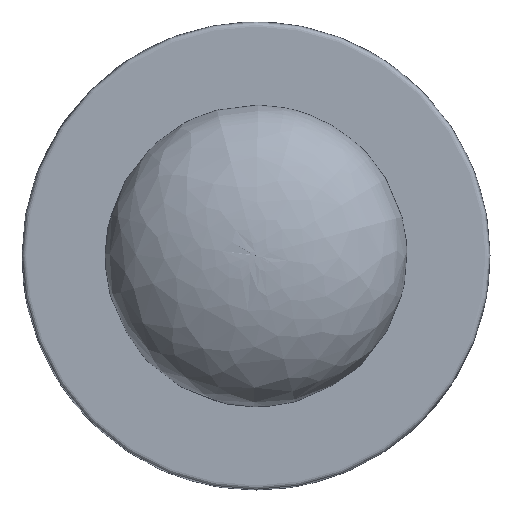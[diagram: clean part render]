
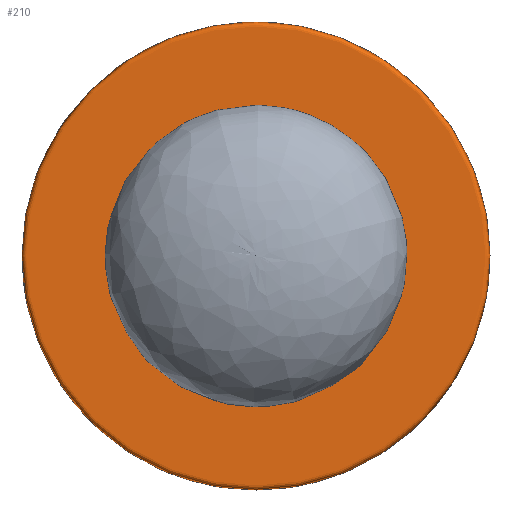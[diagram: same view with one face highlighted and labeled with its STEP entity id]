
A CAD part, front view. The second image highlights one B-rep face of the part: STEP entity #210.
In plain terms, the highlighted free-form (B-spline) face has degree [2, 2] with [9, 7] control points.
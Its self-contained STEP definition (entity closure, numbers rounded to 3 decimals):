
#210=ADVANCED_FACE('',(#295),#1305,.T.);
#295=FACE_OUTER_BOUND('',#388,.T.);
#388=EDGE_LOOP('',(#606,#607,#608,#609,#610));
#606=ORIENTED_EDGE('',*,*,#916,.T.);
#607=ORIENTED_EDGE('',*,*,#917,.T.);
#608=ORIENTED_EDGE('',*,*,#910,.F.);
#609=ORIENTED_EDGE('',*,*,#917,.F.);
#610=ORIENTED_EDGE('',*,*,#915,.T.);
#910=EDGE_CURVE('',#1193,#1193,#1065,.T.);
#915=EDGE_CURVE('',#1196,#1197,#1070,.T.);
#916=EDGE_CURVE('',#1197,#1196,#1071,.T.);
#917=EDGE_CURVE('',#1196,#1193,#1072,.T.);
#1065=(
BOUNDED_CURVE()
B_SPLINE_CURVE(2,(#3072,#3073,#3074,#3075,#3076,#3077,#3078,#3079,#3080),
 .UNSPECIFIED.,.T.,.F.)
B_SPLINE_CURVE_WITH_KNOTS((3,2,2,2,3),(0.,121.737,243.473,
365.21,486.947),.UNSPECIFIED.)
CURVE()
GEOMETRIC_REPRESENTATION_ITEM()
RATIONAL_B_SPLINE_CURVE((1.,0.707,1.,0.707,1.,0.707,
1.,0.707,1.))
REPRESENTATION_ITEM('')
);
#1070=(
BOUNDED_CURVE()
B_SPLINE_CURVE(2,(#3109,#3110,#3111,#3112,#3113),.UNSPECIFIED.,.F.,.F.)
B_SPLINE_CURVE_WITH_KNOTS((3,2,3),(-42.412,-21.206,
0.),.UNSPECIFIED.)
CURVE()
GEOMETRIC_REPRESENTATION_ITEM()
RATIONAL_B_SPLINE_CURVE((1.,0.707,1.,0.707,1.))
REPRESENTATION_ITEM('')
);
#1071=(
BOUNDED_CURVE()
B_SPLINE_CURVE(2,(#3114,#3115,#3116,#3117,#3118),.UNSPECIFIED.,.F.,.F.)
B_SPLINE_CURVE_WITH_KNOTS((3,2,3),(-84.823,-63.617,
-42.412),.UNSPECIFIED.)
CURVE()
GEOMETRIC_REPRESENTATION_ITEM()
RATIONAL_B_SPLINE_CURVE((1.,0.707,1.,0.707,1.))
REPRESENTATION_ITEM('')
);
#1072=(
BOUNDED_CURVE()
B_SPLINE_CURVE(2,(#3119,#3120,#3121,#3122,#3123,#3124,#3125),
 .UNSPECIFIED.,.F.,.F.)
B_SPLINE_CURVE_WITH_KNOTS((3,2,2,3),(13.5,76.,78.356,
104.856),.UNSPECIFIED.)
CURVE()
GEOMETRIC_REPRESENTATION_ITEM()
RATIONAL_B_SPLINE_CURVE((1.,1.,1.,0.707,1.,1.,1.))
REPRESENTATION_ITEM('')
);
#1193=VERTEX_POINT('',#3058);
#1196=VERTEX_POINT('',#3061);
#1197=VERTEX_POINT('',#3062);
#1305=(
BOUNDED_SURFACE()
B_SPLINE_SURFACE(2,2,((#2964,#2965,#2966,#2967,#2968,#2969,#2970),(#2971,
#2972,#2973,#2974,#2975,#2976,#2977),(#2978,#2979,#2980,#2981,#2982,#2983,
#2984),(#2985,#2986,#2987,#2988,#2989,#2990,#2991),(#2992,#2993,#2994,#2995,
#2996,#2997,#2998),(#2999,#3000,#3001,#3002,#3003,#3004,#3005),(#3006,#3007,
#3008,#3009,#3010,#3011,#3012),(#3013,#3014,#3015,#3016,#3017,#3018,#3019),
(#3020,#3021,#3022,#3023,#3024,#3025,#3026)),.UNSPECIFIED.,.T.,.F.,.F.)
B_SPLINE_SURFACE_WITH_KNOTS((3,2,2,2,3),(3,2,2,3),(0.,121.737,
243.473,365.21,486.947),(0.,76.,
78.356,104.856),.UNSPECIFIED.)
GEOMETRIC_REPRESENTATION_ITEM()
RATIONAL_B_SPLINE_SURFACE(((1.,1.,1.,0.707,1.,1.,1.),(0.707,
0.707,0.707,0.5,0.707,
0.707,0.707),(1.,1.,1.,0.707,1.,1.,
1.),(0.707,0.707,0.707,0.5,
0.707,0.707,0.707),(1.,1.,1.,0.707,
1.,1.,1.),(0.707,0.707,0.707,0.5,
0.707,0.707,0.707),(1.,1.,1.,0.707,
1.,1.,1.),(0.707,0.707,0.707,0.5,
0.707,0.707,0.707),(1.,1.,1.,0.707,
1.,1.,1.)))
REPRESENTATION_ITEM('')
SURFACE()
);
#2964=CARTESIAN_POINT('',(0.,-28.,0.));
#2965=CARTESIAN_POINT('',(-38.,-28.,0.));
#2966=CARTESIAN_POINT('',(-76.,-28.,0.));
#2967=CARTESIAN_POINT('',(-77.5,-28.,0.));
#2968=CARTESIAN_POINT('',(-77.5,-26.5,0.));
#2969=CARTESIAN_POINT('',(-77.5,-13.25,0.));
#2970=CARTESIAN_POINT('',(-77.5,0.,0.));
#2971=CARTESIAN_POINT('',(0.,-28.,0.));
#2972=CARTESIAN_POINT('',(-38.,-28.,38.));
#2973=CARTESIAN_POINT('',(-76.,-28.,76.));
#2974=CARTESIAN_POINT('',(-77.5,-28.,77.5));
#2975=CARTESIAN_POINT('',(-77.5,-26.5,77.5));
#2976=CARTESIAN_POINT('',(-77.5,-13.25,77.5));
#2977=CARTESIAN_POINT('',(-77.5,0.,77.5));
#2978=CARTESIAN_POINT('',(0.,-28.,0.));
#2979=CARTESIAN_POINT('',(0.,-28.,38.));
#2980=CARTESIAN_POINT('',(0.,-28.,76.));
#2981=CARTESIAN_POINT('',(0.,-28.,77.5));
#2982=CARTESIAN_POINT('',(0.,-26.5,77.5));
#2983=CARTESIAN_POINT('',(0.,-13.25,77.5));
#2984=CARTESIAN_POINT('',(0.,0.,77.5));
#2985=CARTESIAN_POINT('',(0.,-28.,0.));
#2986=CARTESIAN_POINT('',(38.,-28.,38.));
#2987=CARTESIAN_POINT('',(76.,-28.,76.));
#2988=CARTESIAN_POINT('',(77.5,-28.,77.5));
#2989=CARTESIAN_POINT('',(77.5,-26.5,77.5));
#2990=CARTESIAN_POINT('',(77.5,-13.25,77.5));
#2991=CARTESIAN_POINT('',(77.5,0.,77.5));
#2992=CARTESIAN_POINT('',(0.,-28.,0.));
#2993=CARTESIAN_POINT('',(38.,-28.,0.));
#2994=CARTESIAN_POINT('',(76.,-28.,0.));
#2995=CARTESIAN_POINT('',(77.5,-28.,0.));
#2996=CARTESIAN_POINT('',(77.5,-26.5,0.));
#2997=CARTESIAN_POINT('',(77.5,-13.25,0.));
#2998=CARTESIAN_POINT('',(77.5,0.,0.));
#2999=CARTESIAN_POINT('',(0.,-28.,0.));
#3000=CARTESIAN_POINT('',(38.,-28.,-38.));
#3001=CARTESIAN_POINT('',(76.,-28.,-76.));
#3002=CARTESIAN_POINT('',(77.5,-28.,-77.5));
#3003=CARTESIAN_POINT('',(77.5,-26.5,-77.5));
#3004=CARTESIAN_POINT('',(77.5,-13.25,-77.5));
#3005=CARTESIAN_POINT('',(77.5,0.,-77.5));
#3006=CARTESIAN_POINT('',(0.,-28.,0.));
#3007=CARTESIAN_POINT('',(0.,-28.,-38.));
#3008=CARTESIAN_POINT('',(0.,-28.,-76.));
#3009=CARTESIAN_POINT('',(0.,-28.,-77.5));
#3010=CARTESIAN_POINT('',(0.,-26.5,-77.5));
#3011=CARTESIAN_POINT('',(0.,-13.25,-77.5));
#3012=CARTESIAN_POINT('',(0.,0.,-77.5));
#3013=CARTESIAN_POINT('',(0.,-28.,0.));
#3014=CARTESIAN_POINT('',(-38.,-28.,-38.));
#3015=CARTESIAN_POINT('',(-76.,-28.,-76.));
#3016=CARTESIAN_POINT('',(-77.5,-28.,-77.5));
#3017=CARTESIAN_POINT('',(-77.5,-26.5,-77.5));
#3018=CARTESIAN_POINT('',(-77.5,-13.25,-77.5));
#3019=CARTESIAN_POINT('',(-77.5,0.,-77.5));
#3020=CARTESIAN_POINT('',(0.,-28.,0.));
#3021=CARTESIAN_POINT('',(-38.,-28.,0.));
#3022=CARTESIAN_POINT('',(-76.,-28.,0.));
#3023=CARTESIAN_POINT('',(-77.5,-28.,0.));
#3024=CARTESIAN_POINT('',(-77.5,-26.5,0.));
#3025=CARTESIAN_POINT('',(-77.5,-13.25,0.));
#3026=CARTESIAN_POINT('',(-77.5,0.,0.));
#3058=CARTESIAN_POINT('',(-77.5,0.,0.));
#3061=CARTESIAN_POINT('',(-13.5,-28.,0.));
#3062=CARTESIAN_POINT('',(13.5,-28.,0.));
#3072=CARTESIAN_POINT('',(-77.5,0.,0.));
#3073=CARTESIAN_POINT('',(-77.5,0.,77.5));
#3074=CARTESIAN_POINT('',(0.,0.,77.5));
#3075=CARTESIAN_POINT('',(77.5,0.,77.5));
#3076=CARTESIAN_POINT('',(77.5,0.,0.));
#3077=CARTESIAN_POINT('',(77.5,0.,-77.5));
#3078=CARTESIAN_POINT('',(0.,0.,-77.5));
#3079=CARTESIAN_POINT('',(-77.5,0.,-77.5));
#3080=CARTESIAN_POINT('',(-77.5,0.,0.));
#3109=CARTESIAN_POINT('',(-13.5,-28.,0.));
#3110=CARTESIAN_POINT('',(-13.5,-28.,13.5));
#3111=CARTESIAN_POINT('',(0.,-28.,13.5));
#3112=CARTESIAN_POINT('',(13.5,-28.,13.5));
#3113=CARTESIAN_POINT('',(13.5,-28.,0.));
#3114=CARTESIAN_POINT('',(13.5,-28.,0.));
#3115=CARTESIAN_POINT('',(13.5,-28.,-13.5));
#3116=CARTESIAN_POINT('',(0.,-28.,-13.5));
#3117=CARTESIAN_POINT('',(-13.5,-28.,-13.5));
#3118=CARTESIAN_POINT('',(-13.5,-28.,0.));
#3119=CARTESIAN_POINT('',(-13.5,-28.,0.));
#3120=CARTESIAN_POINT('',(-44.75,-28.,0.));
#3121=CARTESIAN_POINT('',(-76.,-28.,0.));
#3122=CARTESIAN_POINT('',(-77.5,-28.,0.));
#3123=CARTESIAN_POINT('',(-77.5,-26.5,0.));
#3124=CARTESIAN_POINT('',(-77.5,-13.25,0.));
#3125=CARTESIAN_POINT('',(-77.5,0.,0.));
